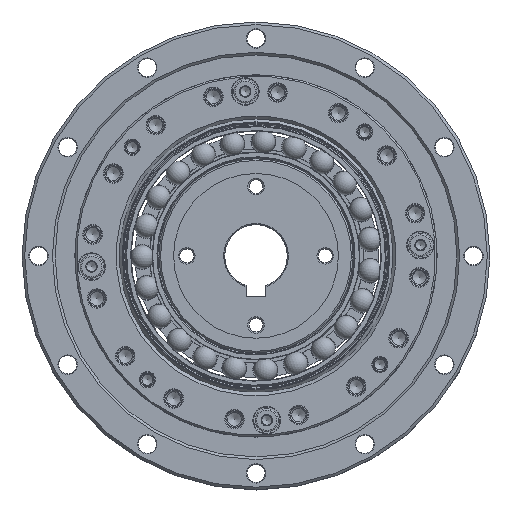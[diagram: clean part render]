
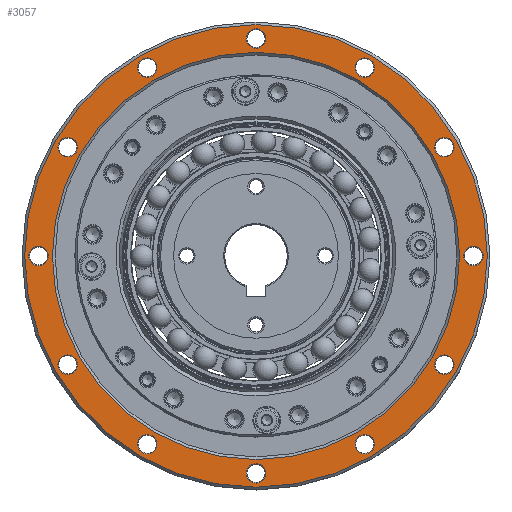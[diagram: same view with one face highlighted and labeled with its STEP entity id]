
A CAD part, top view. The second image highlights one B-rep face of the part: STEP entity #3057.
In plain terms, the highlighted planar face has unit normal (0, 0, 1).
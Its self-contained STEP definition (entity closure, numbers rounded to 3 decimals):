
#3057=ADVANCED_FACE('',(#4234,#4235,#4236,#4237,#4238,#4239,#4240,#4241,
#4242,#4243,#4244,#4245,#4246,#4247),#3458,.T.);
#3458=PLANE('',#11166);
#4234=FACE_BOUND('',#5275,.T.);
#4235=FACE_BOUND('',#5276,.T.);
#4236=FACE_BOUND('',#5277,.T.);
#4237=FACE_BOUND('',#5278,.T.);
#4238=FACE_BOUND('',#5279,.T.);
#4239=FACE_BOUND('',#5280,.T.);
#4240=FACE_BOUND('',#5281,.T.);
#4241=FACE_BOUND('',#5282,.T.);
#4242=FACE_BOUND('',#5283,.T.);
#4243=FACE_BOUND('',#5284,.T.);
#4244=FACE_BOUND('',#5285,.T.);
#4245=FACE_BOUND('',#5286,.T.);
#4246=FACE_BOUND('',#5287,.T.);
#4247=FACE_BOUND('',#5288,.T.);
#5275=EDGE_LOOP('',(#6472));
#5276=EDGE_LOOP('',(#6473));
#5277=EDGE_LOOP('',(#6474));
#5278=EDGE_LOOP('',(#6475));
#5279=EDGE_LOOP('',(#6476));
#5280=EDGE_LOOP('',(#6477));
#5281=EDGE_LOOP('',(#6478));
#5282=EDGE_LOOP('',(#6479));
#5283=EDGE_LOOP('',(#6480));
#5284=EDGE_LOOP('',(#6481));
#5285=EDGE_LOOP('',(#6482));
#5286=EDGE_LOOP('',(#6483));
#5287=EDGE_LOOP('',(#6484));
#5288=EDGE_LOOP('',(#6485));
#6472=ORIENTED_EDGE('',*,*,#9085,.T.);
#6473=ORIENTED_EDGE('',*,*,#9086,.T.);
#6474=ORIENTED_EDGE('',*,*,#9087,.T.);
#6475=ORIENTED_EDGE('',*,*,#9088,.T.);
#6476=ORIENTED_EDGE('',*,*,#9089,.T.);
#6477=ORIENTED_EDGE('',*,*,#9090,.T.);
#6478=ORIENTED_EDGE('',*,*,#9091,.T.);
#6479=ORIENTED_EDGE('',*,*,#9092,.T.);
#6480=ORIENTED_EDGE('',*,*,#9093,.T.);
#6481=ORIENTED_EDGE('',*,*,#9094,.T.);
#6482=ORIENTED_EDGE('',*,*,#9095,.T.);
#6483=ORIENTED_EDGE('',*,*,#9096,.T.);
#6484=ORIENTED_EDGE('',*,*,#9097,.T.);
#6485=ORIENTED_EDGE('',*,*,#9084,.F.);
#8216=VERTEX_POINT('',#15971);
#8217=VERTEX_POINT('',#15974);
#8218=VERTEX_POINT('',#15976);
#8219=VERTEX_POINT('',#15978);
#8220=VERTEX_POINT('',#15980);
#8221=VERTEX_POINT('',#15982);
#8222=VERTEX_POINT('',#15984);
#8223=VERTEX_POINT('',#15986);
#8224=VERTEX_POINT('',#15988);
#8225=VERTEX_POINT('',#15990);
#8226=VERTEX_POINT('',#15992);
#8227=VERTEX_POINT('',#15994);
#8228=VERTEX_POINT('',#15996);
#8229=VERTEX_POINT('',#15998);
#9084=EDGE_CURVE('',#8216,#8216,#10106,.T.);
#9085=EDGE_CURVE('',#8217,#8217,#10107,.T.);
#9086=EDGE_CURVE('',#8218,#8218,#10108,.T.);
#9087=EDGE_CURVE('',#8219,#8219,#10109,.T.);
#9088=EDGE_CURVE('',#8220,#8220,#10110,.T.);
#9089=EDGE_CURVE('',#8221,#8221,#10111,.T.);
#9090=EDGE_CURVE('',#8222,#8222,#10112,.T.);
#9091=EDGE_CURVE('',#8223,#8223,#10113,.T.);
#9092=EDGE_CURVE('',#8224,#8224,#10114,.T.);
#9093=EDGE_CURVE('',#8225,#8225,#10115,.T.);
#9094=EDGE_CURVE('',#8226,#8226,#10116,.T.);
#9095=EDGE_CURVE('',#8227,#8227,#10117,.T.);
#9096=EDGE_CURVE('',#8228,#8228,#10118,.T.);
#9097=EDGE_CURVE('',#8229,#8229,#10119,.T.);
#10106=CIRCLE('',#11151,70.2);
#10107=CIRCLE('',#11153,2.95);
#10108=CIRCLE('',#11154,2.95);
#10109=CIRCLE('',#11155,2.95);
#10110=CIRCLE('',#11156,2.95);
#10111=CIRCLE('',#11157,2.95);
#10112=CIRCLE('',#11158,2.95);
#10113=CIRCLE('',#11159,2.95);
#10114=CIRCLE('',#11160,2.95);
#10115=CIRCLE('',#11161,2.95);
#10116=CIRCLE('',#11162,2.95);
#10117=CIRCLE('',#11163,2.95);
#10118=CIRCLE('',#11164,2.95);
#10119=CIRCLE('',#11165,61.8);
#11151=AXIS2_PLACEMENT_3D('',#15970,#13199,#13200);
#11153=AXIS2_PLACEMENT_3D('',#15973,#13203,#13204);
#11154=AXIS2_PLACEMENT_3D('',#15975,#13205,#13206);
#11155=AXIS2_PLACEMENT_3D('',#15977,#13207,#13208);
#11156=AXIS2_PLACEMENT_3D('',#15979,#13209,#13210);
#11157=AXIS2_PLACEMENT_3D('',#15981,#13211,#13212);
#11158=AXIS2_PLACEMENT_3D('',#15983,#13213,#13214);
#11159=AXIS2_PLACEMENT_3D('',#15985,#13215,#13216);
#11160=AXIS2_PLACEMENT_3D('',#15987,#13217,#13218);
#11161=AXIS2_PLACEMENT_3D('',#15989,#13219,#13220);
#11162=AXIS2_PLACEMENT_3D('',#15991,#13221,#13222);
#11163=AXIS2_PLACEMENT_3D('',#15993,#13223,#13224);
#11164=AXIS2_PLACEMENT_3D('',#15995,#13225,#13226);
#11165=AXIS2_PLACEMENT_3D('',#15997,#13227,#13228);
#11166=AXIS2_PLACEMENT_3D('',#15999,#13229,#13230);
#13199=DIRECTION('',(0.,0.,-1.));
#13200=DIRECTION('',(-1.,0.,0.));
#13203=DIRECTION('',(0.,0.,-1.));
#13204=DIRECTION('',(1.,0.,0.));
#13205=DIRECTION('',(0.,0.,-1.));
#13206=DIRECTION('',(1.,0.,0.));
#13207=DIRECTION('',(0.,0.,-1.));
#13208=DIRECTION('',(1.,0.,0.));
#13209=DIRECTION('',(0.,0.,-1.));
#13210=DIRECTION('',(1.,0.,0.));
#13211=DIRECTION('',(0.,0.,-1.));
#13212=DIRECTION('',(1.,0.,0.));
#13213=DIRECTION('',(0.,0.,-1.));
#13214=DIRECTION('',(1.,0.,0.));
#13215=DIRECTION('',(0.,0.,-1.));
#13216=DIRECTION('',(1.,0.,0.));
#13217=DIRECTION('',(0.,0.,-1.));
#13218=DIRECTION('',(1.,0.,0.));
#13219=DIRECTION('',(0.,0.,-1.));
#13220=DIRECTION('',(1.,0.,0.));
#13221=DIRECTION('',(0.,0.,-1.));
#13222=DIRECTION('',(1.,0.,0.));
#13223=DIRECTION('',(0.,0.,-1.));
#13224=DIRECTION('',(1.,0.,0.));
#13225=DIRECTION('',(0.,0.,-1.));
#13226=DIRECTION('',(1.,0.,0.));
#13227=DIRECTION('',(0.,0.,-1.));
#13228=DIRECTION('',(-1.,0.,0.));
#13229=DIRECTION('',(0.,0.,1.));
#13230=DIRECTION('',(-1.,0.,0.));
#15970=CARTESIAN_POINT('',(0.,0.,23.4));
#15971=CARTESIAN_POINT('',(-70.2,0.,23.4));
#15973=CARTESIAN_POINT('',(33.,-57.158,23.4));
#15974=CARTESIAN_POINT('',(35.95,-57.158,23.4));
#15975=CARTESIAN_POINT('',(57.158,-33.,23.4));
#15976=CARTESIAN_POINT('',(60.108,-33.,23.4));
#15977=CARTESIAN_POINT('',(66.,0.,23.4));
#15978=CARTESIAN_POINT('',(68.95,0.,23.4));
#15979=CARTESIAN_POINT('',(57.158,33.,23.4));
#15980=CARTESIAN_POINT('',(60.108,33.,23.4));
#15981=CARTESIAN_POINT('',(33.,57.158,23.4));
#15982=CARTESIAN_POINT('',(35.95,57.158,23.4));
#15983=CARTESIAN_POINT('',(0.,66.,23.4));
#15984=CARTESIAN_POINT('',(2.95,66.,23.4));
#15985=CARTESIAN_POINT('',(-33.,57.158,23.4));
#15986=CARTESIAN_POINT('',(-30.05,57.158,23.4));
#15987=CARTESIAN_POINT('',(-57.158,33.,23.4));
#15988=CARTESIAN_POINT('',(-54.208,33.,23.4));
#15989=CARTESIAN_POINT('',(-66.,0.,23.4));
#15990=CARTESIAN_POINT('',(-63.05,0.,23.4));
#15991=CARTESIAN_POINT('',(-57.158,-33.,23.4));
#15992=CARTESIAN_POINT('',(-54.208,-33.,23.4));
#15993=CARTESIAN_POINT('',(-33.,-57.158,23.4));
#15994=CARTESIAN_POINT('',(-30.05,-57.158,23.4));
#15995=CARTESIAN_POINT('',(0.,-66.,23.4));
#15996=CARTESIAN_POINT('',(2.95,-66.,23.4));
#15997=CARTESIAN_POINT('',(0.,0.,23.4));
#15998=CARTESIAN_POINT('',(-61.8,0.,23.4));
#15999=CARTESIAN_POINT('',(70.2,0.,23.4));
